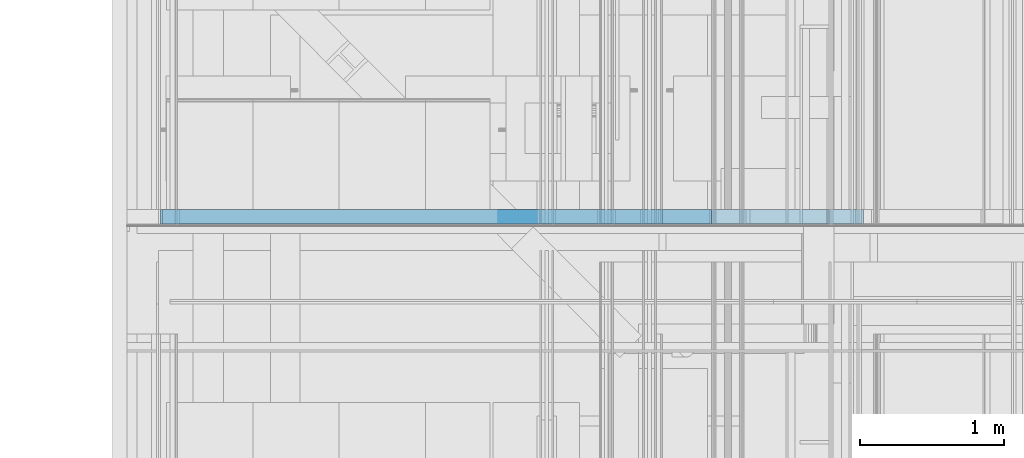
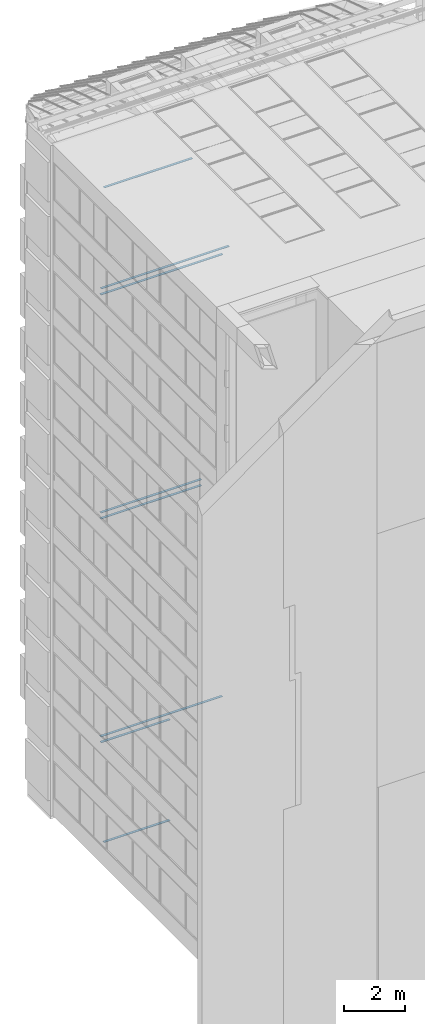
# One storey, part 81 of 583: 8 building element parts, 5 elements without a shape of their own.
"""IFC2X3 building model written with IfcOpenShell, lengths in metres."""

from ifc_helpers import new_model, entity, si_unit, converted_unit, derived_unit, money_unit, direction, frame, frame_2d, origin_with_axes, place, context, subcontext, project, spatial, polyline, rectangle, outline, extrude, material, type_object, element, aggregate, save


model = new_model("IFC2X3")

# Units and contexts
model_context = context("Model", 3, precision=1e-05, world=origin_with_axes(), true_north=direction((0.0, 1.0)))
body_context = subcontext(model_context, "Body", "Model", "MODEL_VIEW", scale=1.0)
ifc_project = project(units=[si_unit("LENGTHUNIT", "METRE"), si_unit("AREAUNIT", "SQUARE_METRE"), si_unit("VOLUMEUNIT", "CUBIC_METRE"), si_unit("ABSORBEDDOSEUNIT", "GRAY"), si_unit("AMOUNTOFSUBSTANCEUNIT", "MOLE"), si_unit("DOSEEQUIVALENTUNIT", "SIEVERT"), si_unit("ELECTRICCAPACITANCEUNIT", "FARAD"), si_unit("ELECTRICCHARGEUNIT", "COULOMB"), si_unit("ELECTRICCONDUCTANCEUNIT", "SIEMENS"), si_unit("ELECTRICCURRENTUNIT", "AMPERE"), si_unit("ELECTRICRESISTANCEUNIT", "OHM"), si_unit("ELECTRICVOLTAGEUNIT", "VOLT"), si_unit("ENERGYUNIT", "JOULE"), si_unit("FORCEUNIT", "NEWTON"), si_unit("FREQUENCYUNIT", "HERTZ"), si_unit("ILLUMINANCEUNIT", "LUX"), si_unit("INDUCTANCEUNIT", "HENRY"), si_unit("LUMINOUSFLUXUNIT", "LUMEN"), si_unit("LUMINOUSINTENSITYUNIT", "CANDELA"), si_unit("MAGNETICFLUXDENSITYUNIT", "TESLA"), si_unit("MAGNETICFLUXUNIT", "WEBER"), si_unit("MASSUNIT", "GRAM"), converted_unit("PLANEANGLEUNIT", "degree", entity("IfcReal", 0.0174532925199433), si_unit("PLANEANGLEUNIT", "RADIAN"), dimensions=[0, 0, 0, 0, 0, 0, 0]), si_unit("POWERUNIT", "WATT"), si_unit("PRESSUREUNIT", "PASCAL"), si_unit("RADIOACTIVITYUNIT", "BECQUEREL"), si_unit("SOLIDANGLEUNIT", "STERADIAN"), si_unit("THERMODYNAMICTEMPERATUREUNIT", "KELVIN"), si_unit("TIMEUNIT", "SECOND"), derived_unit("ACCELERATIONUNIT", [(si_unit("LENGTHUNIT", "METRE"), 1), (si_unit("TIMEUNIT", "SECOND"), -2)]), derived_unit("ANGULARVELOCITYUNIT", [(converted_unit("PLANEANGLEUNIT", "degree", entity("IfcReal", 0.0174532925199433), si_unit("PLANEANGLEUNIT", "RADIAN"), dimensions=[0, 0, 0, 0, 0, 0, 0]), 1), (si_unit("TIMEUNIT", "SECOND"), -1)]), derived_unit("CURVATUREUNIT", [(converted_unit("PLANEANGLEUNIT", "degree", entity("IfcReal", 0.0174532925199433), si_unit("PLANEANGLEUNIT", "RADIAN"), dimensions=[0, 0, 0, 0, 0, 0, 0]), 1), (si_unit("LENGTHUNIT", "METRE"), -1)]), derived_unit("DYNAMICVISCOSITYUNIT", [(si_unit("PRESSUREUNIT", "PASCAL"), 1), (si_unit("TIMEUNIT", "SECOND"), 1)]), derived_unit("HEATFLUXDENSITYUNIT", [(si_unit("POWERUNIT", "WATT"), 1), (si_unit("LENGTHUNIT", "METRE"), -2)]), derived_unit("HEATINGVALUEUNIT", [(si_unit("ENERGYUNIT", "JOULE"), 1), (si_unit("MASSUNIT", "GRAM"), -1)]), derived_unit("INTEGERCOUNTRATEUNIT", [(si_unit("TIMEUNIT", "SECOND"), -1)]), derived_unit("IONCONCENTRATIONUNIT", [(si_unit("MASSUNIT", "GRAM"), 1), (si_unit("VOLUMEUNIT", "CUBIC_METRE"), -1)]), derived_unit("ISOTHERMALMOISTURECAPACITYUNIT", [(si_unit("VOLUMEUNIT", "CUBIC_METRE"), 1), (si_unit("MASSUNIT", "GRAM"), -1)]), derived_unit("KINEMATICVISCOSITYUNIT", [(si_unit("AREAUNIT", "SQUARE_METRE"), 1), (si_unit("TIMEUNIT", "SECOND"), -1)]), derived_unit("LINEARFORCEUNIT", [(si_unit("FORCEUNIT", "NEWTON"), 1), (si_unit("LENGTHUNIT", "METRE"), -1)]), derived_unit("LINEARMOMENTUNIT", [(si_unit("FORCEUNIT", "NEWTON"), 1), (si_unit("LENGTHUNIT", "METRE"), -1)]), derived_unit("LINEARSTIFFNESSUNIT", [(si_unit("FORCEUNIT", "NEWTON"), 1), (si_unit("LENGTHUNIT", "METRE"), -1)]), derived_unit("LINEARVELOCITYUNIT", [(si_unit("LENGTHUNIT", "METRE"), 1), (si_unit("TIMEUNIT", "SECOND"), -1)]), derived_unit("LUMINOUSINTENSITYDISTRIBUTIONUNIT", [(si_unit("LUMINOUSINTENSITYUNIT", "CANDELA"), 1), (si_unit("LUMINOUSFLUXUNIT", "LUMEN"), -1)]), derived_unit("MASSDENSITYUNIT", [(si_unit("MASSUNIT", "GRAM"), 1), (si_unit("VOLUMEUNIT", "CUBIC_METRE"), -1)]), derived_unit("MASSFLOWRATEUNIT", [(si_unit("MASSUNIT", "GRAM"), 1), (si_unit("TIMEUNIT", "SECOND"), -1)]), derived_unit("MASSPERLENGTHUNIT", [(si_unit("MASSUNIT", "GRAM"), 1), (si_unit("LENGTHUNIT", "METRE"), -1)]), derived_unit("MODULUSOFELASTICITYUNIT", [(si_unit("FORCEUNIT", "NEWTON"), 1), (si_unit("AREAUNIT", "SQUARE_METRE"), -1)]), derived_unit("MODULUSOFLINEARSUBGRADEREACTIONUNIT", [(si_unit("FORCEUNIT", "NEWTON"), 1), (si_unit("LENGTHUNIT", "METRE"), -2)]), derived_unit("MODULUSOFROTATIONALSUBGRADEREACTIONUNIT", [(si_unit("FORCEUNIT", "NEWTON"), 1), (si_unit("LENGTHUNIT", "METRE"), 1)]), derived_unit("MODULUSOFSUBGRADEREACTIONUNIT", [(si_unit("FORCEUNIT", "NEWTON"), 1), (si_unit("VOLUMEUNIT", "CUBIC_METRE"), -1)]), derived_unit("MOISTUREDIFFUSIVITYUNIT", [(si_unit("VOLUMEUNIT", "CUBIC_METRE"), 1), (si_unit("TIMEUNIT", "SECOND"), -1)]), derived_unit("MOLECULARWEIGHTUNIT", [(si_unit("MASSUNIT", "GRAM"), 1), (si_unit("AMOUNTOFSUBSTANCEUNIT", "MOLE"), -1)]), derived_unit("PLANARFORCEUNIT", [(si_unit("FORCEUNIT", "NEWTON"), 1), (si_unit("LENGTHUNIT", "METRE"), -2)]), derived_unit("ROTATIONALFREQUENCYUNIT", [(si_unit("TIMEUNIT", "SECOND"), -1)]), derived_unit("ROTATIONALMASSUNIT", [(si_unit("MASSUNIT", "GRAM"), 1), (si_unit("LENGTHUNIT", "METRE"), 2)]), derived_unit("ROTATIONALSTIFFNESSUNIT", [(si_unit("FORCEUNIT", "NEWTON"), 1), (si_unit("LENGTHUNIT", "METRE"), 1), (converted_unit("PLANEANGLEUNIT", "degree", entity("IfcReal", 0.0174532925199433), si_unit("PLANEANGLEUNIT", "RADIAN"), dimensions=[0, 0, 0, 0, 0, 0, 0]), -1)]), derived_unit("SECTIONAREAINTEGRALUNIT", [(si_unit("LENGTHUNIT", "METRE"), 5)]), derived_unit("SECTIONMODULUSUNIT", [(si_unit("LENGTHUNIT", "METRE"), 3)]), derived_unit("SHEARMODULUSUNIT", [(si_unit("FORCEUNIT", "NEWTON"), 1), (si_unit("AREAUNIT", "SQUARE_METRE"), -1)]), derived_unit("SOUNDPOWERUNIT", [(si_unit("ENERGYUNIT", "JOULE"), 1), (si_unit("TIMEUNIT", "SECOND"), -1)]), derived_unit("SPECIFICHEATCAPACITYUNIT", [(si_unit("FORCEUNIT", "NEWTON"), 1), (si_unit("MASSUNIT", "GRAM"), -1), (si_unit("THERMODYNAMICTEMPERATUREUNIT", "KELVIN"), -1)]), derived_unit("TEMPERATUREGRADIENTUNIT", [(si_unit("THERMODYNAMICTEMPERATUREUNIT", "KELVIN"), 1), (si_unit("LENGTHUNIT", "METRE"), -1)]), derived_unit("THERMALADMITTANCEUNIT", [(si_unit("POWERUNIT", "WATT"), 1), (si_unit("AREAUNIT", "SQUARE_METRE"), -1), (si_unit("THERMODYNAMICTEMPERATUREUNIT", "KELVIN"), -1)]), derived_unit("THERMALCONDUCTANCEUNIT", [(si_unit("POWERUNIT", "WATT"), 1), (si_unit("LENGTHUNIT", "METRE"), -1), (si_unit("THERMODYNAMICTEMPERATUREUNIT", "KELVIN"), -1)]), derived_unit("THERMALEXPANSIONCOEFFICIENTUNIT", [(si_unit("THERMODYNAMICTEMPERATUREUNIT", "KELVIN"), -1)]), derived_unit("THERMALRESISTANCEUNIT", [(si_unit("AREAUNIT", "SQUARE_METRE"), 1), (si_unit("POWERUNIT", "WATT"), -1)]), derived_unit("THERMALTRANSMITTANCEUNIT", [(si_unit("POWERUNIT", "WATT"), 1), (si_unit("AREAUNIT", "SQUARE_METRE"), -1), (si_unit("THERMODYNAMICTEMPERATUREUNIT", "KELVIN"), -1)]), derived_unit("TORQUEUNIT", [(si_unit("FORCEUNIT", "NEWTON"), 1), (si_unit("LENGTHUNIT", "METRE"), 1)]), derived_unit("VAPORPERMEABILITYUNIT", [(si_unit("MASSUNIT", "GRAM"), 1), (si_unit("TIMEUNIT", "SECOND"), -1)]), derived_unit("VOLUMETRICFLOWRATEUNIT", [(si_unit("VOLUMEUNIT", "CUBIC_METRE"), 1), (si_unit("TIMEUNIT", "SECOND"), -1)]), derived_unit("WARPINGCONSTANTUNIT", [(si_unit("LENGTHUNIT", "METRE"), 6)]), derived_unit("WARPINGMOMENTUNIT", [(si_unit("FORCEUNIT", "NEWTON"), 1), (si_unit("LENGTHUNIT", "METRE"), 2)]), money_unit("GBP")], contexts=[model_context])

# Site, building, storey
site_placement = place(None, origin_with_axes())
site = spatial("IfcSite", under=ifc_project, at=site_placement, Name="Site", CompositionType="ELEMENT")
building_placement = place(site_placement, origin_with_axes())
building = spatial("IfcBuilding", under=site, at=building_placement, Name="Building01", CompositionType="ELEMENT")
storey_placement = place(building_placement, frame((0.0, 0.0, 20.78), z_axis=(0.0, 0.0, 1.0), x_axis=(1.0, 0.0, 0.0)))
storey = spatial("IfcBuildingStorey", under=building, at=storey_placement, Name="RL", CompositionType="ELEMENT", Elevation=20.78)

# Wall, building element parts
wall_type_1 = type_object("IfcWallType", Name="SHE_A-Walls_Type01c_Partywall_225mm_twin_tall", PredefinedType="NOTDEFINED")
wall_1_placement = place(storey_placement, frame((5.068, 12.13, 1.708), z_axis=(0.0, 1.0, 0.0), x_axis=(-1.0, 0.0, 0.0)))
wall_1 = element("IfcWall", 1, at=wall_1_placement, inside=storey, type_object=wall_type_1, Name="1C", ObjectType="SHE_A-Walls_Type01c_Partywall_225mm_twin_tall")
ifc_material = material(Name="A_BSUK_Walls_Timber")
placement_1 = place(wall_1_placement, origin_with_axes())
building_element_part_1 = element("IfcBuildingElementPart", 2, at=placement_1, material=ifc_material, Name="2", context=body_context, shape_type="SweptSolid", body=[
    extrude(outline(polyline([(-0.152, 0.152), (-0.137, 0.137), (4.72, 0.137), (4.72, 0.152), (-0.152, 0.152)])), frame((0.0, 0.0, 0.015), z_axis=(0.0, 0.0, 1.0), x_axis=(1.0, 0.0, 0.0)), (0.0, 0.0, 1.0), 0.1),
])
building_element_part_2 = element("IfcBuildingElementPart", 3, at=placement_1, material=ifc_material, Name="7", context=body_context, shape_type="SweptSolid", body=[
    extrude(outline(polyline([(4.735, -0.088), (0.088, -0.088), (0.103, -0.103), (4.735, -0.103), (4.735, -0.088)])), frame((0.0, 0.0, 0.015), z_axis=(0.0, 0.0, 1.0), x_axis=(1.0, 0.0, 0.0)), (0.0, 0.0, 1.0), 0.1),
])
aggregate(wall_1, [building_element_part_1, building_element_part_2])

# Wall, building element part
wall_type_2 = type_object("IfcWallType", Name="SHE_A-Walls_Type06d_ExternalWallInsulation_48mm", PredefinedType="NOTDEFINED")
wall_2_placement = place(storey_placement, frame((0.4, 12.13, 5.93), z_axis=(0.0, 1.0, 0.0), x_axis=(1.0, 0.0, 0.0)))
wall_2 = element("IfcWall", 4, at=wall_2_placement, inside=storey, type_object=wall_type_2, Name="6D", ObjectType="SHE_A-Walls_Type06d_ExternalWallInsulation_48mm")
building_element_part_3_placement = place(wall_2_placement, origin_with_axes())
building_element_part_3 = element("IfcBuildingElementPart", 5, at=building_element_part_3_placement, material=ifc_material, Name="2", context=body_context, shape_type="SweptSolid", body=[
    extrude(outline(polyline([(0.063, 0.063), (0.048, 0.048), (3.42218, 0.048), (3.42218, 0.063), (0.063, 0.063)])), frame((0.0, 0.0, 0.015), z_axis=(0.0, 0.0, 1.0), x_axis=(1.0, 0.0, 0.0)), (0.0, 0.0, 1.0), 0.1),
])
aggregate(wall_2, [building_element_part_3])

# Wall, building element parts
wall_3_placement = place(storey_placement, frame((4.995, 12.13, -7.2795), z_axis=(0.0, 1.0, 0.0), x_axis=(-1.0, 0.0, 0.0)))
wall_3 = element("IfcWall", 6, at=wall_3_placement, inside=storey, type_object=wall_type_1, Name="1C", ObjectType="SHE_A-Walls_Type01c_Partywall_225mm_twin_tall")
placement_2 = place(wall_3_placement, origin_with_axes())
building_element_part_4 = element("IfcBuildingElementPart", 7, at=placement_2, material=ifc_material, Name="2", context=body_context, shape_type="SweptSolid", body=[
    extrude(rectangle(XDim=0.015, YDim=3.831428, at=frame_2d((2.746286, 0.1195), x_axis=(0.0, -1.0))), frame((0.0, 0.0, 0.015), z_axis=(0.0, 0.0, 1.0), x_axis=(1.0, 0.0, 0.0)), (0.0, 0.0, 1.0), 0.1),
])
building_element_part_5 = element("IfcBuildingElementPart", 8, at=placement_2, material=ifc_material, Name="7", context=body_context, shape_type="SweptSolid", body=[
    extrude(rectangle(XDim=3.831428, YDim=0.015, at=frame_2d((2.746286, -0.1205), x_axis=(-1.0, 0.0))), frame((0.0, 0.0, 0.015), z_axis=(0.0, 0.0, 1.0), x_axis=(1.0, 0.0, 0.0)), (0.0, 0.0, 1.0), 0.1),
])
aggregate(wall_3, [building_element_part_4, building_element_part_5])

# Wall, building element part
wall_4_placement = place(storey_placement, frame((3.77418, 12.13, -20.51), z_axis=(0.0, 1.0, 0.0), x_axis=(-1.0, 0.0, 0.0)))
wall_4 = element("IfcWall", 9, at=wall_4_placement, inside=storey, type_object=wall_type_2, Name="6D", ObjectType="SHE_A-Walls_Type06d_ExternalWallInsulation_48mm")
building_element_part_6_placement = place(wall_4_placement, origin_with_axes())
building_element_part_6 = element("IfcBuildingElementPart", 10, at=building_element_part_6_placement, material=ifc_material, Name="3", context=body_context, shape_type="SweptSolid", body=[
    extrude(outline(polyline([(3.31118, 0.063), (0.803894, 0.063), (0.803894, 0.048), (3.32618, 0.048), (3.31118, 0.063)])), frame((0.0, 0.0, 0.015), z_axis=(0.0, 0.0, 1.0), x_axis=(1.0, 0.0, 0.0)), (0.0, 0.0, 1.0), 0.1),
])
aggregate(wall_4, [building_element_part_6])

# Wall, building element parts
wall_5_placement = place(storey_placement, frame((0.306, 12.13, -16.258), z_axis=(0.0, 1.0, 0.0), x_axis=(1.0, 0.0, 0.0)))
wall_5 = element("IfcWall", 11, at=wall_5_placement, inside=storey, type_object=wall_type_1, Name="1C", ObjectType="SHE_A-Walls_Type01c_Partywall_225mm_twin_tall")
placement_3 = place(wall_5_placement, origin_with_axes())
building_element_part_7 = element("IfcBuildingElementPart", 12, at=placement_3, material=ifc_material, Name="2", context=body_context, shape_type="SweptSolid", body=[
    extrude(rectangle(XDim=2.622286, YDim=0.015, at=frame_2d((1.353143, 0.1445), x_axis=(-1.0, 0.0))), frame((0.0, 0.0, 0.015), z_axis=(0.0, 0.0, 1.0), x_axis=(1.0, 0.0, 0.0)), (0.0, 0.0, 1.0), 0.1),
])
building_element_part_8 = element("IfcBuildingElementPart", 13, at=placement_3, material=ifc_material, Name="7", context=body_context, shape_type="SweptSolid", body=[
    extrude(rectangle(XDim=4.632, YDim=0.015, at=frame_2d((2.343, -0.0955), x_axis=(-1.0, 0.0))), frame((0.0, 0.0, 0.015), z_axis=(0.0, 0.0, 1.0), x_axis=(1.0, 0.0, 0.0)), (0.0, 0.0, 1.0), 0.1),
])
aggregate(wall_5, [building_element_part_7, building_element_part_8])

save(model, "model.ifc")
